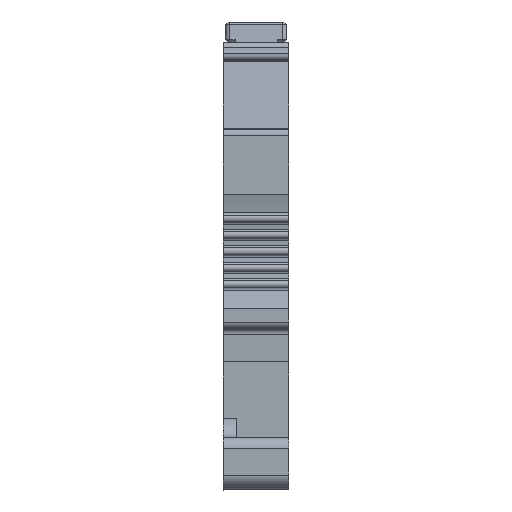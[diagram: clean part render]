
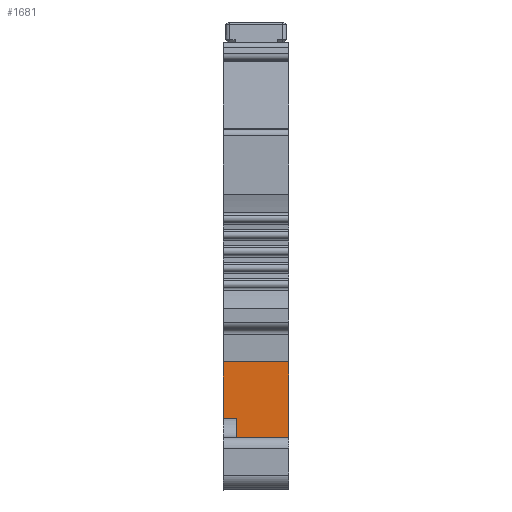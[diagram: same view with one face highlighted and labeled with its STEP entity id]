
A CAD part, front view. The second image highlights one B-rep face of the part: STEP entity #1681.
In plain terms, the highlighted planar face has unit normal (0, -1, 0).
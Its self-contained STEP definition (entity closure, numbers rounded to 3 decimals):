
#696=FACE_OUTER_BOUND('',#3309,.T.);
#1681=ADVANCED_FACE('',(#696),#2581,.F.);
#2581=PLANE('',#19727);
#3309=EDGE_LOOP('',(#6327,#6328,#6329,#6330,#6331,#6332));
#6327=ORIENTED_EDGE('',*,*,#13416,.T.);
#6328=ORIENTED_EDGE('',*,*,#13417,.F.);
#6329=ORIENTED_EDGE('',*,*,#12750,.T.);
#6330=ORIENTED_EDGE('',*,*,#13415,.T.);
#6331=ORIENTED_EDGE('',*,*,#12826,.F.);
#6332=ORIENTED_EDGE('',*,*,#13418,.F.);
#10888=VERTEX_POINT('',#26502);
#10889=VERTEX_POINT('',#26504);
#10961=VERTEX_POINT('',#26654);
#10962=VERTEX_POINT('',#26656);
#11386=VERTEX_POINT('',#28227);
#11387=VERTEX_POINT('',#28228);
#12750=EDGE_CURVE('',#10889,#10888,#15504,.T.);
#12826=EDGE_CURVE('',#10961,#10962,#15542,.T.);
#13415=EDGE_CURVE('',#10888,#10962,#15939,.T.);
#13416=EDGE_CURVE('',#11386,#11387,#15940,.T.);
#13417=EDGE_CURVE('',#10889,#11387,#15941,.T.);
#13418=EDGE_CURVE('',#11386,#10961,#15942,.T.);
#15504=LINE('',#26503,#17418);
#15542=LINE('',#26655,#17456);
#15939=LINE('',#28224,#17858);
#15940=LINE('',#28226,#17859);
#15941=LINE('',#28229,#17860);
#15942=LINE('',#28230,#17861);
#17418=VECTOR('',#21166,1.);
#17456=VECTOR('',#21286,1.);
#17858=VECTOR('',#22326,1.);
#17859=VECTOR('',#22329,1.);
#17860=VECTOR('',#22330,1.);
#17861=VECTOR('',#22331,1.);
#19727=AXIS2_PLACEMENT_3D('',#28231,#22332,#22333);
#21166=DIRECTION('',(0.,0.,1.));
#21286=DIRECTION('',(0.,0.,1.));
#22326=DIRECTION('',(-1.,0.,0.));
#22329=DIRECTION('',(0.,0.,-1.));
#22330=DIRECTION('',(-1.,0.,0.));
#22331=DIRECTION('',(-1.,0.,0.));
#22332=DIRECTION('',(0.,1.,0.));
#22333=DIRECTION('',(0.,0.,1.));
#26502=CARTESIAN_POINT('',(5.2,6.566,-32.394));
#26503=CARTESIAN_POINT('',(5.2,6.566,-40.344));
#26504=CARTESIAN_POINT('',(5.2,6.566,-40.344));
#26654=CARTESIAN_POINT('',(0.,6.566,-36.844));
#26655=CARTESIAN_POINT('',(0.,6.566,-36.844));
#26656=CARTESIAN_POINT('',(0.,6.566,-32.394));
#28224=CARTESIAN_POINT('',(5.2,6.566,-32.394));
#28226=CARTESIAN_POINT('',(1.05,6.566,-36.844));
#28227=CARTESIAN_POINT('',(1.05,6.566,-36.844));
#28228=CARTESIAN_POINT('',(1.05,6.566,-40.344));
#28229=CARTESIAN_POINT('',(5.2,6.566,-40.344));
#28230=CARTESIAN_POINT('',(1.05,6.566,-36.844));
#28231=CARTESIAN_POINT('',(0.05,6.566,-32.394));
